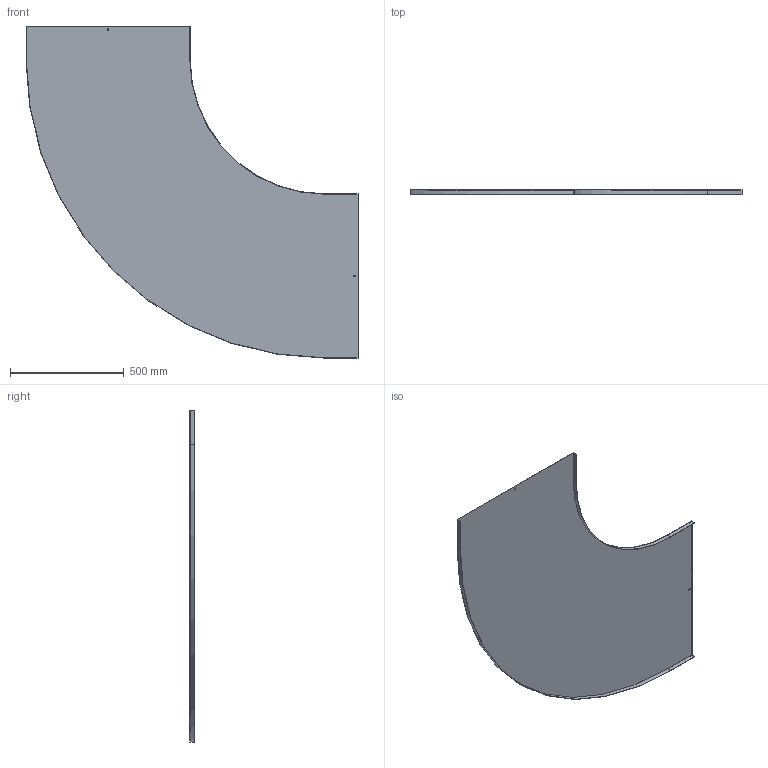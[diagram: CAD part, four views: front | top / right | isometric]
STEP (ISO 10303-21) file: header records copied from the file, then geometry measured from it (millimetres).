
FILE_DESCRIPTION (( 'STEP AP214' ), '1' );
FILE_NAME ('10N6P700.step', '2025-02-21T13:37:22', ( '' ), ( '' ), 'SwSTEP 2.0', 'SolidWorks 2023', '' );
FILE_SCHEMA (( 'AUTOMOTIVE_DESIGN' ));
Length unit declared in the file: millimetre
Products named in the file (1): 10N6P700
Bounding box: 1461.5 x 20 x 1461.5 mm (x, y, z)
Volume: 2042996.9 mm3; surface area: 2731745.7 mm2
Topology: 1 solids, 1 shells, 26 faces, 72 edges, 48 vertices
Faces by surface type: plane 22, cylinder 4
Entity records: 855 total; most frequent: CARTESIAN_POINT 147, ORIENTED_EDGE 144, DIRECTION 134, EDGE_CURVE 72, LINE 64, VECTOR 64, VERTEX_POINT 48, AXIS2_PLACEMENT_3D 35
